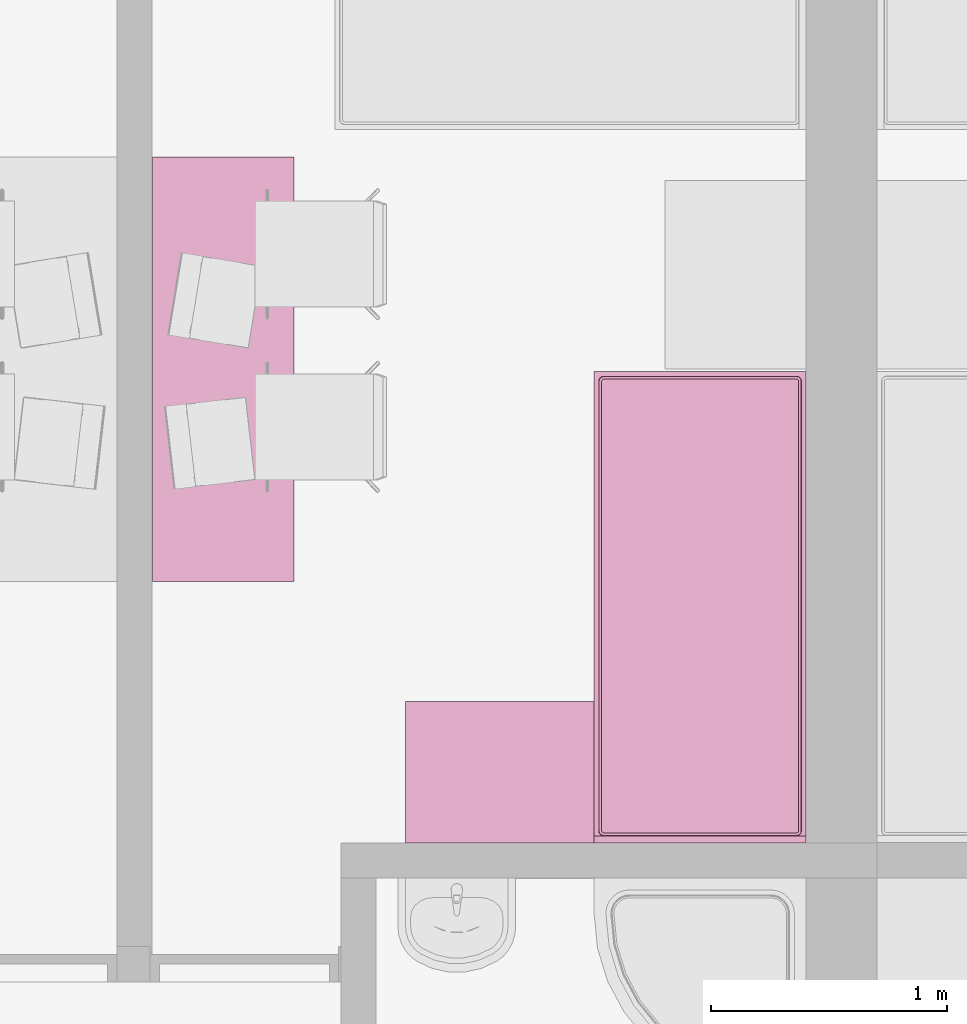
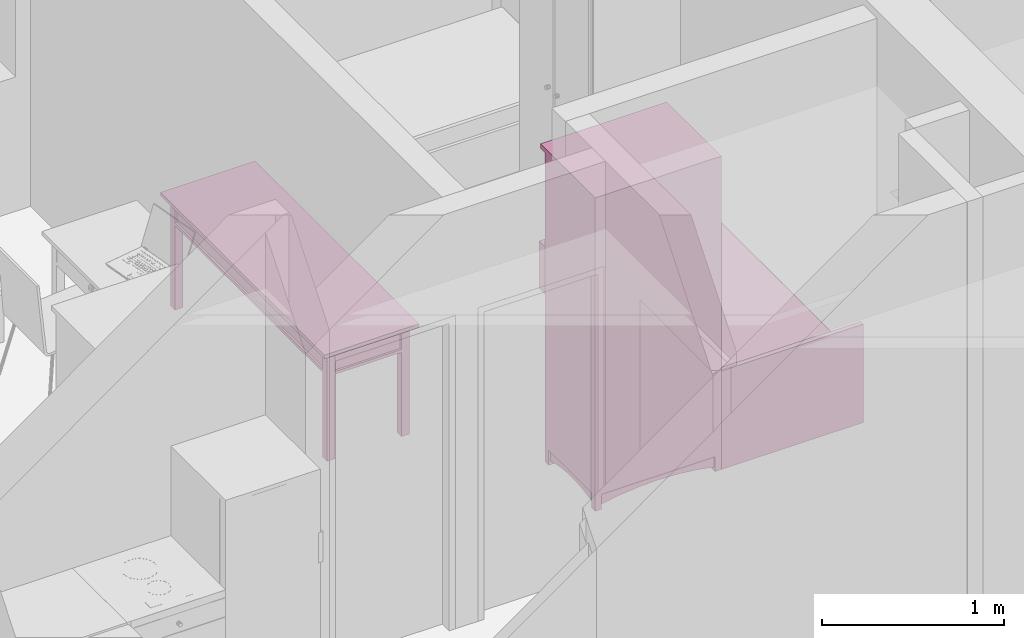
# One storey, part 93 of 165: 3 furnishings.
"""IFC2X3 building model written with IfcOpenShell, lengths in millimetres."""

from ifc_helpers import new_model, entity, si_unit, converted_unit, money_unit, direction, frame, origin_with_axes, place, context, subcontext, project, spatial, faceted_brep, source, transform, mapped, material, material_list, type_object, element, save


model = new_model("IFC2X3")

# Units and contexts
model_context = context("Model", 3, precision=1e-05, world=origin_with_axes(), true_north=direction((0.0, 1.0)))
body_context = subcontext(model_context, "Body", "Model", "MODEL_VIEW")
ifc_project = project(units=[si_unit("LENGTHUNIT", "METRE", prefix="MILLI"), si_unit("AREAUNIT", "SQUARE_METRE"), si_unit("VOLUMEUNIT", "CUBIC_METRE"), converted_unit("PLANEANGLEUNIT", "DEGREE", entity("IfcPlaneAngleMeasure", 0.0174532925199), si_unit("PLANEANGLEUNIT", "RADIAN"), dimensions=[0, 0, 0, 0, 0, 0, 0]), si_unit("SOLIDANGLEUNIT", "STERADIAN"), money_unit("USD"), converted_unit("TIMEUNIT", "Year", entity("IfcTimeMeasure", 31556926.0), si_unit("TIMEUNIT", "SECOND"), dimensions=[0, 0, 0, 0, 0, 0, 0]), si_unit("MASSUNIT", "GRAM"), si_unit("THERMODYNAMICTEMPERATUREUNIT", "DEGREE_CELSIUS"), si_unit("LUMINOUSINTENSITYUNIT", "LUMEN")], contexts=[model_context])

# Site, building, storey
site_placement = place(None, origin_with_axes())
site = spatial("IfcSite", under=ifc_project, at=site_placement, Name="Site", CompositionType="ELEMENT")
building_placement = place(site_placement, origin_with_axes())
building = spatial("IfcBuilding", under=site, at=building_placement, Name="Building", CompositionType="ELEMENT")
storey_placement = place(building_placement, frame((0.0, 0.0, 6300.0), z_axis=(0.0, 0.0, 1.0), x_axis=(1.0, 0.0, 0.0)))
storey = spatial("IfcBuildingStorey", under=building, at=storey_placement, Name="4KORRUS", CompositionType="ELEMENT", Elevation=6300.0)

# Furnishings
ifc_material = material(Name="Background")
ifc_material_list = material_list([ifc_material])
furnishing_element_type_1 = type_object("IfcFurnishingElementType", Name="Cupboard 19")
shared_shape_1 = source(origin_with_axes(), body_context, "Body", "Brep", [
    faceted_brep([(-780.0, 600.0, 120.0), (-780.0, 580.0, 120.0), (-780.0, 580.0, 2050.0), (-780.0, 600.0, 2050.0), (-20.0, 600.0, 120.0), (-20.0, 580.0, 120.0), (-20.0, 580.0, 2050.0), (-20.0, 600.0, 2050.0)], [[[0, 1, 2, 3]], [[0, 4, 5, 1]], [[1, 5, 6, 2]], [[3, 2, 6, 7]], [[4, 0, 3, 7]], [[5, 4, 7, 6]]]),
    faceted_brep([(0.0, 50.0, 100.0), (-20.0, 50.0, 100.0), (-20.0, 600.0, 100.0), (0.0, 600.0, 100.0), (0.0, 50.0, 2070.0), (-20.0, 50.0, 2070.0), (-20.0, 600.0, 2070.0), (0.0, 600.0, 2070.0)], [[[0, 1, 2, 3]], [[1, 0, 4, 5]], [[2, 1, 5, 6]], [[3, 2, 6, 7]], [[0, 3, 7, 4]], [[5, 4, 7, 6]]]),
    faceted_brep([(-780.0, 50.0, 100.0), (-800.0, 50.0, 100.0), (-800.0, 600.0, 100.0), (-780.0, 600.0, 100.0), (-780.0, 50.0, 2070.0), (-800.0, 50.0, 2070.0), (-800.0, 600.0, 2070.0), (-780.0, 600.0, 2070.0)], [[[0, 1, 2, 3]], [[1, 0, 4, 5]], [[2, 1, 5, 6]], [[3, 2, 6, 7]], [[0, 3, 7, 4]], [[5, 4, 7, 6]]]),
    faceted_brep([(-20.0, 50.0, 100.0), (-780.0, 50.0, 100.0), (-780.0, 600.0, 100.0), (-20.0, 600.0, 100.0), (-20.0, 50.0, 120.0), (-780.0, 50.0, 120.0), (-780.0, 600.0, 120.0), (-20.0, 600.0, 120.0)], [[[0, 1, 2, 3]], [[1, 0, 4, 5]], [[2, 1, 5, 6]], [[3, 2, 6, 7]], [[0, 3, 7, 4]], [[5, 4, 7, 6]]]),
    faceted_brep([(-20.0, 50.0, 2050.0), (-780.0, 50.0, 2050.0), (-780.0, 600.0, 2050.0), (-20.0, 600.0, 2050.0), (-20.0, 50.0, 2070.0), (-780.0, 50.0, 2070.0), (-780.0, 600.0, 2070.0), (-20.0, 600.0, 2070.0)], [[[0, 1, 2, 3]], [[1, 0, 4, 5]], [[2, 1, 5, 6]], [[3, 2, 6, 7]], [[0, 3, 7, 4]], [[5, 4, 7, 6]]]),
    faceted_brep([(0.0, 600.0, 2070.0), (0.0, 600.0, 2100.0), (0.0, 0.0, 2100.0), (0.0, 0.0, 2070.0), (-800.0, 600.0, 2070.0), (-800.0, 600.0, 2100.0), (-800.0, 0.0, 2100.0), (-800.0, 0.0, 2070.0)], [[[0, 1, 2, 3]], [[4, 5, 1, 0]], [[1, 5, 6, 2]], [[3, 2, 6, 7]], [[0, 3, 7, 4]], [[7, 6, 5, 4]]]),
    faceted_brep([(-760.0, 590.0, 25.0), (-640.962, 590.0, 45.8), (-640.962, 570.0, 45.8), (-760.0, 570.0, 25.0), (-760.0, 590.0, 100.0), (-40.0, 590.0, 100.0), (-40.0, 590.0, 25.0), (-159.038, 590.0, 45.8), (-279.23, 590.0, 58.32), (-400.0, 590.0, 62.5), (-520.77, 590.0, 58.32), (-520.77, 570.0, 58.32), (-400.0, 570.0, 62.5), (-279.23, 570.0, 58.32), (-159.038, 570.0, 45.8), (-40.0, 570.0, 25.0), (-40.0, 570.0, 100.0), (-760.0, 570.0, 100.0)], [[[0, 1, 2, 3]], [[0, 4, 5, 6, 7, 8, 9, 10, 1]], [[1, 10, 11, 2]], [[3, 2, 11, 12, 13, 14, 15, 16, 17]], [[4, 0, 3, 17]], [[5, 4, 17, 16]], [[6, 5, 16, 15]], [[7, 6, 15, 14]], [[8, 7, 14, 13]], [[9, 8, 13, 12]], [[10, 9, 12, 11]]]),
    faceted_brep([(-760.0, 80.0, 25.0), (-640.962, 80.0, 45.8), (-640.962, 60.0, 45.8), (-760.0, 60.0, 25.0), (-760.0, 80.0, 100.0), (-40.0, 80.0, 100.0), (-40.0, 80.0, 25.0), (-159.038, 80.0, 45.8), (-279.23, 80.0, 58.32), (-400.0, 80.0, 62.5), (-520.77, 80.0, 58.32), (-520.77, 60.0, 58.32), (-400.0, 60.0, 62.5), (-279.23, 60.0, 58.32), (-159.038, 60.0, 45.8), (-40.0, 60.0, 25.0), (-40.0, 60.0, 100.0), (-760.0, 60.0, 100.0)], [[[0, 1, 2, 3]], [[0, 4, 5, 6, 7, 8, 9, 10, 1]], [[1, 10, 11, 2]], [[3, 2, 11, 12, 13, 14, 15, 16, 17]], [[4, 0, 3, 17]], [[5, 4, 17, 16]], [[6, 5, 16, 15]], [[7, 6, 15, 14]], [[8, 7, 14, 13]], [[9, 8, 13, 12]], [[10, 9, 12, 11]]]),
    faceted_brep([(-790.0, 90.0, 25.0), (-790.0, 141.266, 38.072), (-770.0, 141.266, 38.072), (-770.0, 90.0, 25.0), (-790.0, 90.0, 100.0), (-790.0, 560.0, 100.0), (-790.0, 560.0, 25.0), (-790.0, 508.734, 38.072), (-790.0, 456.752, 47.92), (-790.0, 404.257, 54.508), (-790.0, 351.453, 57.808), (-790.0, 298.547, 57.808), (-790.0, 245.743, 54.508), (-790.0, 193.248, 47.92), (-770.0, 193.248, 47.92), (-770.0, 245.743, 54.508), (-770.0, 298.547, 57.808), (-770.0, 351.453, 57.808), (-770.0, 404.257, 54.508), (-770.0, 456.752, 47.92), (-770.0, 508.734, 38.072), (-770.0, 560.0, 25.0), (-770.0, 560.0, 100.0), (-770.0, 90.0, 100.0)], [[[0, 1, 2, 3]], [[0, 4, 5, 6, 7, 8, 9, 10, 11, 12, 13, 1]], [[1, 13, 14, 2]], [[3, 2, 14, 15, 16, 17, 18, 19, 20, 21, 22, 23]], [[4, 0, 3, 23]], [[5, 4, 23, 22]], [[6, 5, 22, 21]], [[7, 6, 21, 20]], [[8, 7, 20, 19]], [[9, 8, 19, 18]], [[10, 9, 18, 17]], [[11, 10, 17, 16]], [[12, 11, 16, 15]], [[13, 12, 15, 14]]]),
    faceted_brep([(-30.0, 90.0, 25.0), (-30.0, 141.266, 38.072), (-10.0, 141.266, 38.072), (-10.0, 90.0, 25.0), (-30.0, 90.0, 100.0), (-30.0, 560.0, 100.0), (-30.0, 560.0, 25.0), (-30.0, 508.734, 38.072), (-30.0, 456.752, 47.92), (-30.0, 404.257, 54.508), (-30.0, 351.453, 57.808), (-30.0, 298.547, 57.808), (-30.0, 245.743, 54.508), (-30.0, 193.248, 47.92), (-10.0, 193.248, 47.92), (-10.0, 245.743, 54.508), (-10.0, 298.547, 57.808), (-10.0, 351.453, 57.808), (-10.0, 404.257, 54.508), (-10.0, 456.752, 47.92), (-10.0, 508.734, 38.072), (-10.0, 560.0, 25.0), (-10.0, 560.0, 100.0), (-10.0, 90.0, 100.0)], [[[0, 1, 2, 3]], [[0, 4, 5, 6, 7, 8, 9, 10, 11, 12, 13, 1]], [[1, 13, 14, 2]], [[3, 2, 14, 15, 16, 17, 18, 19, 20, 21, 22, 23]], [[4, 0, 3, 23]], [[5, 4, 23, 22]], [[6, 5, 22, 21]], [[7, 6, 21, 20]], [[8, 7, 20, 19]], [[9, 8, 19, 18]], [[10, 9, 18, 17]], [[11, 10, 17, 16]], [[12, 11, 16, 15]], [[13, 12, 15, 14]]]),
    faceted_brep([(-760.0, 560.0, 0.0), (-760.0, 600.0, 0.0), (-760.0, 600.0, 100.0), (-760.0, 560.0, 100.0), (-800.0, 560.0, 0.0), (-800.0, 600.0, 0.0), (-800.0, 600.0, 100.0), (-800.0, 560.0, 100.0)], [[[0, 1, 2, 3]], [[0, 4, 5, 1]], [[1, 5, 6, 2]], [[3, 2, 6, 7]], [[4, 0, 3, 7]], [[5, 4, 7, 6]]]),
    faceted_brep([(0.0, 560.0, 0.0), (0.0, 600.0, 0.0), (0.0, 600.0, 100.0), (0.0, 560.0, 100.0), (-40.0, 560.0, 0.0), (-40.0, 600.0, 0.0), (-40.0, 600.0, 100.0), (-40.0, 560.0, 100.0)], [[[0, 1, 2, 3]], [[0, 4, 5, 1]], [[1, 5, 6, 2]], [[3, 2, 6, 7]], [[4, 0, 3, 7]], [[5, 4, 7, 6]]]),
    faceted_brep([(-760.0, 50.0, 0.0), (-760.0, 90.0, 0.0), (-760.0, 90.0, 100.0), (-760.0, 50.0, 100.0), (-800.0, 50.0, 0.0), (-800.0, 90.0, 0.0), (-800.0, 90.0, 100.0), (-800.0, 50.0, 100.0)], [[[0, 1, 2, 3]], [[0, 4, 5, 1]], [[1, 5, 6, 2]], [[3, 2, 6, 7]], [[4, 0, 3, 7]], [[5, 4, 7, 6]]]),
    faceted_brep([(0.0, 50.0, 0.0), (0.0, 90.0, 0.0), (0.0, 90.0, 100.0), (0.0, 50.0, 100.0), (-40.0, 50.0, 0.0), (-40.0, 90.0, 0.0), (-40.0, 90.0, 100.0), (-40.0, 50.0, 100.0)], [[[0, 1, 2, 3]], [[0, 4, 5, 1]], [[1, 5, 6, 2]], [[3, 2, 6, 7]], [[4, 0, 3, 7]], [[5, 4, 7, 6]]]),
    faceted_brep([(-780.0, 580.0, 587.5), (-780.0, 50.0, 587.5), (-780.0, 50.0, 607.5), (-780.0, 580.0, 607.5), (-20.0, 580.0, 587.5), (-20.0, 50.0, 587.5), (-20.0, 50.0, 607.5), (-20.0, 580.0, 607.5)], [[[0, 1, 2, 3]], [[0, 4, 5, 1]], [[1, 5, 6, 2]], [[3, 2, 6, 7]], [[4, 0, 3, 7]], [[5, 4, 7, 6]]]),
    faceted_brep([(-780.0, 580.0, 1075.0), (-780.0, 50.0, 1075.0), (-780.0, 50.0, 1095.0), (-780.0, 580.0, 1095.0), (-20.0, 580.0, 1075.0), (-20.0, 50.0, 1075.0), (-20.0, 50.0, 1095.0), (-20.0, 580.0, 1095.0)], [[[0, 1, 2, 3]], [[0, 4, 5, 1]], [[1, 5, 6, 2]], [[3, 2, 6, 7]], [[4, 0, 3, 7]], [[5, 4, 7, 6]]]),
    faceted_brep([(-780.0, 580.0, 1562.5), (-780.0, 50.0, 1562.5), (-780.0, 50.0, 1582.5), (-780.0, 580.0, 1582.5), (-20.0, 580.0, 1562.5), (-20.0, 50.0, 1562.5), (-20.0, 50.0, 1582.5), (-20.0, 580.0, 1582.5)], [[[0, 1, 2, 3]], [[0, 4, 5, 1]], [[1, 5, 6, 2]], [[3, 2, 6, 7]], [[4, 0, 3, 7]], [[5, 4, 7, 6]]]),
    faceted_brep([(-789.5, 50.0, 110.5), (-789.5, 50.0, 2059.5), (-400.5, 50.0, 2059.5), (-400.5, 50.0, 110.5), (-789.5, 40.0, 110.5), (-789.5, 40.0, 2059.5), (-400.5, 40.0, 2059.5), (-400.5, 40.0, 110.5), (-779.5, 30.0, 120.5), (-779.5, 30.0, 2049.5), (-410.5, 30.0, 2049.5), (-410.5, 30.0, 120.5)], [[[0, 1, 2, 3]], [[1, 0, 4, 5]], [[2, 1, 5, 6]], [[3, 2, 6, 7]], [[0, 3, 7, 4]], [[5, 4, 8, 9]], [[6, 5, 9, 10]], [[7, 6, 10, 11]], [[4, 7, 11, 8]], [[10, 9, 8, 11]]]),
    faceted_brep([(-399.5, 50.0, 110.5), (-399.5, 50.0, 2059.5), (-10.5, 50.0, 2059.5), (-10.5, 50.0, 110.5), (-399.5, 40.0, 110.5), (-399.5, 40.0, 2059.5), (-10.5, 40.0, 2059.5), (-10.5, 40.0, 110.5), (-389.5, 30.0, 120.5), (-389.5, 30.0, 2049.5), (-20.5, 30.0, 2049.5), (-20.5, 30.0, 120.5)], [[[0, 1, 2, 3]], [[1, 0, 4, 5]], [[2, 1, 5, 6]], [[3, 2, 6, 7]], [[0, 3, 7, 4]], [[5, 4, 8, 9]], [[6, 5, 9, 10]], [[7, 6, 10, 11]], [[4, 7, 11, 8]], [[10, 9, 8, 11]]]),
    faceted_brep([(-339.608, 30.0, 954.0), (-344.0, 30.0, 949.608), (-350.0, 30.0, 948.0), (-356.0, 30.0, 949.608), (-360.392, 30.0, 954.0), (-362.0, 30.0, 960.0), (-360.392, 30.0, 966.0), (-356.0, 30.0, 970.392), (-350.0, 30.0, 972.0), (-344.0, 30.0, 970.392), (-339.608, 30.0, 966.0), (-338.0, 30.0, 960.0), (-339.608, 5.0, 954.0), (-344.0, 5.0, 949.608), (-350.0, 5.0, 948.0), (-356.0, 5.0, 949.608), (-360.392, 5.0, 954.0), (-362.0, 5.0, 960.0), (-360.392, 5.0, 966.0), (-356.0, 5.0, 970.392), (-350.0, 5.0, 972.0), (-344.0, 5.0, 970.392), (-339.608, 5.0, 966.0), (-338.0, 5.0, 960.0)], [[[0, 1, 2, 3, 4, 5, 6, 7, 8, 9, 10, 11]], [[1, 0, 12, 13]], [[2, 1, 13, 14]], [[3, 2, 14, 15]], [[4, 3, 15, 16]], [[5, 4, 16, 17]], [[6, 5, 17, 18]], [[7, 6, 18, 19]], [[8, 7, 19, 20]], [[9, 8, 20, 21]], [[10, 9, 21, 22]], [[11, 10, 22, 23]], [[0, 11, 23, 12]], [[12, 23, 22, 21, 20, 19, 18, 17, 16, 15, 14, 13]]]),
    faceted_brep([(-460.392, 30.0, 954.0), (-462.0, 30.0, 960.0), (-460.392, 30.0, 966.0), (-456.0, 30.0, 970.392), (-450.0, 30.0, 972.0), (-444.0, 30.0, 970.392), (-439.608, 30.0, 966.0), (-438.0, 30.0, 960.0), (-439.608, 30.0, 954.0), (-444.0, 30.0, 949.608), (-450.0, 30.0, 948.0), (-456.0, 30.0, 949.608), (-460.392, 5.0, 954.0), (-462.0, 5.0, 960.0), (-460.392, 5.0, 966.0), (-456.0, 5.0, 970.392), (-450.0, 5.0, 972.0), (-444.0, 5.0, 970.392), (-439.608, 5.0, 966.0), (-438.0, 5.0, 960.0), (-439.608, 5.0, 954.0), (-444.0, 5.0, 949.608), (-450.0, 5.0, 948.0), (-456.0, 5.0, 949.608)], [[[0, 1, 2, 3, 4, 5, 6, 7, 8, 9, 10, 11]], [[0, 12, 13, 1]], [[1, 13, 14, 2]], [[2, 14, 15, 3]], [[3, 15, 16, 4]], [[4, 16, 17, 5]], [[5, 17, 18, 6]], [[6, 18, 19, 7]], [[7, 19, 20, 8]], [[8, 20, 21, 9]], [[9, 21, 22, 10]], [[10, 22, 23, 11]], [[11, 23, 12, 0]], [[12, 23, 22, 21, 20, 19, 18, 17, 16, 15, 14, 13]]]),
])
furnishing_1_placement = place(storey_placement, frame((-31990.2967033, -8617.37850445, 0.0), z_axis=(0.0, 0.0, 1.0), x_axis=(-1.0, 0.0, 0.0)))
element("IfcFurnishingElement", 1, at=furnishing_1_placement, inside=storey, type_object=furnishing_element_type_1, material=ifc_material_list, Name="FU - 014", context=body_context, shape_type="MappedRepresentation", body=[
    mapped(shared_shape_1, transform((0.0, 0.0, 0.0))),
])
furnishing_element_type_2 = type_object("IfcFurnishingElementType", Name="Bed 19")
shared_shape_2 = source(origin_with_axes(), body_context, "Body", "Brep", [
    faceted_brep([(-900.0, 1970.0, 0.0), (-900.0, 2000.0, 0.0), (0.0, 2000.0, 0.0), (0.0, 1970.0, 0.0), (-900.0, 1970.0, 660.0), (-900.0, 2000.0, 660.0), (0.0, 2000.0, 660.0), (0.0, 1970.0, 660.0)], [[[0, 1, 2, 3]], [[0, 4, 5, 1]], [[1, 5, 6, 2]], [[2, 6, 7, 3]], [[3, 7, 4, 0]], [[7, 6, 5, 4]]]),
    faceted_brep([(-900.0, 0.0, 0.0), (-900.0, 1970.0, 0.0), (0.0, 1970.0, 0.0), (0.0, 0.0, 0.0), (-900.0, 0.0, 320.0), (-900.0, 1970.0, 320.0), (0.0, 1970.0, 320.0), (0.0, 0.0, 320.0)], [[[0, 1, 2, 3]], [[0, 4, 5, 1]], [[1, 5, 6, 2]], [[2, 6, 7, 3]], [[3, 7, 4, 0]], [[7, 6, 5, 4]]]),
    faceted_brep([(-905.0, 10.0, 30.0), (-905.0, 695.0, 30.0), (-900.0, 695.0, 30.0), (-900.0, 10.0, 30.0), (-905.0, 10.0, 290.0), (-905.0, 695.0, 290.0), (-900.0, 695.0, 290.0), (-900.0, 10.0, 290.0)], [[[0, 1, 2, 3]], [[0, 4, 5, 1]], [[1, 5, 6, 2]], [[2, 6, 7, 3]], [[3, 7, 4, 0]], [[7, 6, 5, 4]]]),
    faceted_brep([(-935.0, 307.5, 150.0), (-935.0, 397.5, 150.0), (-905.0, 397.5, 150.0), (-905.0, 307.5, 150.0), (-935.0, 307.5, 170.0), (-935.0, 397.5, 170.0), (-905.0, 397.5, 170.0), (-905.0, 307.5, 170.0)], [[[0, 1, 2, 3]], [[0, 4, 5, 1]], [[1, 5, 6, 2]], [[2, 6, 7, 3]], [[3, 7, 4, 0]], [[7, 6, 5, 4]]]),
    faceted_brep([(-905.0, 705.0, 30.0), (-905.0, 1390.0, 30.0), (-900.0, 1390.0, 30.0), (-900.0, 705.0, 30.0), (-905.0, 705.0, 290.0), (-905.0, 1390.0, 290.0), (-900.0, 1390.0, 290.0), (-900.0, 705.0, 290.0)], [[[0, 1, 2, 3]], [[0, 4, 5, 1]], [[1, 5, 6, 2]], [[2, 6, 7, 3]], [[3, 7, 4, 0]], [[7, 6, 5, 4]]]),
    faceted_brep([(-935.0, 1002.5, 150.0), (-935.0, 1092.5, 150.0), (-905.0, 1092.5, 150.0), (-905.0, 1002.5, 150.0), (-935.0, 1002.5, 170.0), (-935.0, 1092.5, 170.0), (-905.0, 1092.5, 170.0), (-905.0, 1002.5, 170.0)], [[[0, 1, 2, 3]], [[0, 4, 5, 1]], [[1, 5, 6, 2]], [[2, 6, 7, 3]], [[3, 7, 4, 0]], [[7, 6, 5, 4]]]),
    faceted_brep([(-20.0, 40.0, 350.0), (-21.522, 32.346, 350.0), (-25.858, 25.858, 350.0), (-32.346, 21.522, 350.0), (-40.0, 20.0, 350.0), (-860.0, 20.0, 350.0), (-867.654, 21.522, 350.0), (-874.142, 25.858, 350.0), (-878.478, 32.346, 350.0), (-880.0, 40.0, 350.0), (-880.0, 1950.0, 350.0), (-878.478, 1957.654, 350.0), (-874.142, 1964.142, 350.0), (-867.654, 1968.478, 350.0), (-860.0, 1970.0, 350.0), (-40.0, 1970.0, 350.0), (-32.346, 1968.478, 350.0), (-25.858, 1964.142, 350.0), (-21.522, 1957.654, 350.0), (-20.0, 1950.0, 350.0), (-20.0, 40.0, 420.0), (-21.522, 32.346, 420.0), (-25.858, 25.858, 420.0), (-32.346, 21.522, 420.0), (-40.0, 20.0, 420.0), (-860.0, 20.0, 420.0), (-867.654, 21.522, 420.0), (-874.142, 25.858, 420.0), (-878.478, 32.346, 420.0), (-880.0, 40.0, 420.0), (-880.0, 1950.0, 420.0), (-878.478, 1957.654, 420.0), (-874.142, 1964.142, 420.0), (-867.654, 1968.478, 420.0), (-860.0, 1970.0, 420.0), (-40.0, 1970.0, 420.0), (-32.346, 1968.478, 420.0), (-25.858, 1964.142, 420.0), (-21.522, 1957.654, 420.0), (-20.0, 1950.0, 420.0), (-21.522, 40.15, 427.654), (-22.956, 32.94, 427.654), (-26.955, 26.955, 427.654), (-32.94, 22.956, 427.654), (-40.15, 21.522, 427.654), (-859.85, 21.522, 427.654), (-867.06, 22.956, 427.654), (-873.045, 26.955, 427.654), (-877.044, 32.94, 427.654), (-878.478, 40.15, 427.654), (-878.478, 1949.85, 427.654), (-877.044, 1957.06, 427.654), (-873.045, 1963.045, 427.654), (-867.06, 1967.044, 427.654), (-859.85, 1968.478, 427.654), (-40.15, 1968.478, 427.654), (-32.94, 1967.044, 427.654), (-26.955, 1963.045, 427.654), (-22.956, 1957.06, 427.654), (-21.522, 1949.85, 427.654), (-32.346, 41.216, 438.478), (-33.152, 37.164, 438.478), (-34.759, 34.759, 438.478), (-37.164, 33.152, 438.478), (-41.216, 32.346, 438.478), (-858.784, 32.346, 438.478), (-862.836, 33.152, 438.478), (-865.241, 34.759, 438.478), (-866.848, 37.164, 438.478), (-867.654, 41.216, 438.478), (-867.654, 1948.784, 438.478), (-866.848, 1952.836, 438.478), (-865.241, 1955.241, 438.478), (-862.836, 1956.848, 438.478), (-858.784, 1957.654, 438.478), (-41.216, 1957.654, 438.478), (-37.164, 1956.848, 438.478), (-34.759, 1955.241, 438.478), (-33.152, 1952.836, 438.478), (-32.346, 1948.784, 438.478), (-40.0, 41.97, 440.0), (-40.327, 40.327, 440.0), (-40.0, 40.0, 439.924), (-41.97, 40.0, 440.0), (-858.03, 40.0, 440.0), (-859.673, 40.327, 440.0), (-860.0, 40.0, 439.924), (-860.0, 41.97, 440.0), (-860.0, 1948.03, 440.0), (-859.673, 1949.673, 440.0), (-860.0, 1950.0, 439.924), (-858.03, 1950.0, 440.0), (-41.97, 1950.0, 440.0), (-40.327, 1949.673, 440.0), (-40.0, 1950.0, 439.924), (-40.0, 1948.03, 440.0)], [[[0, 1, 2, 3, 4, 5, 6, 7, 8, 9, 10, 11, 12, 13, 14, 15, 16, 17, 18, 19]], [[0, 20, 21, 1]], [[1, 21, 22, 2]], [[2, 22, 23, 3]], [[3, 23, 24, 4]], [[4, 24, 25, 5]], [[5, 25, 26, 6]], [[6, 26, 27, 7]], [[7, 27, 28, 8]], [[8, 28, 29, 9]], [[9, 29, 30, 10]], [[10, 30, 31, 11]], [[11, 31, 32, 12]], [[12, 32, 33, 13]], [[13, 33, 34, 14]], [[14, 34, 35, 15]], [[15, 35, 36, 16]], [[16, 36, 37, 17]], [[17, 37, 38, 18]], [[18, 38, 39, 19]], [[19, 39, 20, 0]], [[20, 40, 41, 21]], [[21, 41, 42, 22]], [[22, 42, 43, 23]], [[23, 43, 44, 24]], [[24, 44, 45, 25]], [[25, 45, 46, 26]], [[26, 46, 47, 27]], [[27, 47, 48, 28]], [[28, 48, 49, 29]], [[29, 49, 50, 30]], [[30, 50, 51, 31]], [[31, 51, 52, 32]], [[32, 52, 53, 33]], [[33, 53, 54, 34]], [[34, 54, 55, 35]], [[35, 55, 56, 36]], [[36, 56, 57, 37]], [[37, 57, 58, 38]], [[38, 58, 59, 39]], [[39, 59, 40, 20]], [[40, 60, 61, 41]], [[41, 61, 62, 42]], [[42, 62, 63, 43]], [[43, 63, 64, 44]], [[44, 64, 65, 45]], [[45, 65, 66, 46]], [[46, 66, 67, 47]], [[47, 67, 68, 48]], [[48, 68, 69, 49]], [[49, 69, 70, 50]], [[50, 70, 71, 51]], [[51, 71, 72, 52]], [[52, 72, 73, 53]], [[53, 73, 74, 54]], [[54, 74, 75, 55]], [[55, 75, 76, 56]], [[56, 76, 77, 57]], [[57, 77, 78, 58]], [[58, 78, 79, 59]], [[59, 79, 60, 40]], [[60, 80, 81, 82, 61]], [[61, 82, 62]], [[62, 82, 63]], [[63, 82, 81, 83, 64]], [[64, 83, 84, 65]], [[65, 84, 85, 86, 66]], [[66, 86, 67]], [[67, 86, 68]], [[68, 86, 85, 87, 69]], [[69, 87, 88, 70]], [[70, 88, 89, 90, 71]], [[71, 90, 72]], [[72, 90, 73]], [[73, 90, 89, 91, 74]], [[74, 91, 92, 75]], [[75, 92, 93, 94, 76]], [[76, 94, 77]], [[77, 94, 78]], [[78, 94, 93, 95, 79]], [[79, 95, 80, 60]], [[95, 93, 92, 91, 89, 88, 87, 85, 84, 83, 81, 80]]]),
    faceted_brep([(-20.0, 40.0, 350.0), (-20.0, 1950.0, 350.0), (-21.522, 1957.654, 350.0), (-25.858, 1964.142, 350.0), (-32.346, 1968.478, 350.0), (-40.0, 1970.0, 350.0), (-860.0, 1970.0, 350.0), (-867.654, 1968.478, 350.0), (-874.142, 1964.142, 350.0), (-878.478, 1957.654, 350.0), (-880.0, 1950.0, 350.0), (-880.0, 40.0, 350.0), (-878.478, 32.346, 350.0), (-874.142, 25.858, 350.0), (-867.654, 21.522, 350.0), (-860.0, 20.0, 350.0), (-40.0, 20.0, 350.0), (-32.346, 21.522, 350.0), (-25.858, 25.858, 350.0), (-21.522, 32.346, 350.0), (-20.0, 40.0, 320.0), (-20.0, 1950.0, 320.0), (-21.522, 1957.654, 320.0), (-25.858, 1964.142, 320.0), (-32.346, 1968.478, 320.0), (-40.0, 1970.0, 320.0), (-860.0, 1970.0, 320.0), (-867.654, 1968.478, 320.0), (-874.142, 1964.142, 320.0), (-878.478, 1957.654, 320.0), (-880.0, 1950.0, 320.0), (-880.0, 40.0, 320.0), (-878.478, 32.346, 320.0), (-874.142, 25.858, 320.0), (-867.654, 21.522, 320.0), (-860.0, 20.0, 320.0), (-40.0, 20.0, 320.0), (-32.346, 21.522, 320.0), (-25.858, 25.858, 320.0), (-21.522, 32.346, 320.0)], [[[0, 1, 2, 3, 4, 5, 6, 7, 8, 9, 10, 11, 12, 13, 14, 15, 16, 17, 18, 19]], [[1, 0, 20, 21]], [[2, 1, 21, 22]], [[3, 2, 22, 23]], [[4, 3, 23, 24]], [[5, 4, 24, 25]], [[6, 5, 25, 26]], [[7, 6, 26, 27]], [[8, 7, 27, 28]], [[9, 8, 28, 29]], [[10, 9, 29, 30]], [[11, 10, 30, 31]], [[12, 11, 31, 32]], [[13, 12, 32, 33]], [[14, 13, 33, 34]], [[15, 14, 34, 35]], [[16, 15, 35, 36]], [[17, 16, 36, 37]], [[18, 17, 37, 38]], [[19, 18, 38, 39]], [[0, 19, 39, 20]], [[20, 39, 38, 37, 36, 35, 34, 33, 32, 31, 30, 29, 28, 27, 26, 25, 24, 23, 22, 21]]]),
])
furnishing_2_placement = place(storey_placement, frame((-31190.2967033, -7217.37850445, 0.0), z_axis=(0.0, 0.0, 1.0), x_axis=(-1.0, 0.0, 0.0)))
element("IfcFurnishingElement", 2, at=furnishing_2_placement, inside=storey, type_object=furnishing_element_type_2, material=ifc_material_list, Name="FU - 013", context=body_context, shape_type="MappedRepresentation", body=[
    mapped(shared_shape_2, transform((0.0, 0.0, 0.0))),
])
furnishing_element_type_3 = type_object("IfcFurnishingElementType", Name="Rectangular Table 01 19")
shared_shape_3 = source(origin_with_axes(), body_context, "Body", "Brep", [
    faceted_brep([(-90.0, 40.0, 0.0), (-90.0, 90.0, 0.0), (-40.0, 90.0, 0.0), (-40.0, 40.0, 0.0), (-90.0, 40.0, 725.0), (-90.0, 90.0, 725.0), (-40.0, 90.0, 725.0), (-40.0, 40.0, 725.0)], [[[0, 1, 2, 3]], [[0, 4, 5, 1]], [[1, 5, 6, 2]], [[2, 6, 7, 3]], [[3, 7, 4, 0]], [[7, 6, 5, 4]]]),
    faceted_brep([(-1760.0, 40.0, 0.0), (-1760.0, 90.0, 0.0), (-1710.0, 90.0, 0.0), (-1710.0, 40.0, 0.0), (-1760.0, 40.0, 725.0), (-1760.0, 90.0, 725.0), (-1710.0, 90.0, 725.0), (-1710.0, 40.0, 725.0)], [[[0, 1, 2, 3]], [[0, 4, 5, 1]], [[1, 5, 6, 2]], [[2, 6, 7, 3]], [[3, 7, 4, 0]], [[7, 6, 5, 4]]]),
    faceted_brep([(-90.0, 510.0, 0.0), (-90.0, 560.0, 0.0), (-40.0, 560.0, 0.0), (-40.0, 510.0, 0.0), (-90.0, 510.0, 725.0), (-90.0, 560.0, 725.0), (-40.0, 560.0, 725.0), (-40.0, 510.0, 725.0)], [[[0, 1, 2, 3]], [[0, 4, 5, 1]], [[1, 5, 6, 2]], [[2, 6, 7, 3]], [[3, 7, 4, 0]], [[7, 6, 5, 4]]]),
    faceted_brep([(-1760.0, 510.0, 0.0), (-1760.0, 560.0, 0.0), (-1710.0, 560.0, 0.0), (-1710.0, 510.0, 0.0), (-1760.0, 510.0, 725.0), (-1760.0, 560.0, 725.0), (-1710.0, 560.0, 725.0), (-1710.0, 510.0, 725.0)], [[[0, 1, 2, 3]], [[0, 4, 5, 1]], [[1, 5, 6, 2]], [[2, 6, 7, 3]], [[3, 7, 4, 0]], [[7, 6, 5, 4]]]),
    faceted_brep([(-1760.0, 40.0, 565.0), (-1760.0, 560.0, 565.0), (-40.0, 560.0, 565.0), (-40.0, 40.0, 565.0), (-1760.0, 40.0, 585.0), (-1760.0, 560.0, 585.0), (-40.0, 560.0, 585.0), (-40.0, 40.0, 585.0)], [[[0, 1, 2, 3]], [[0, 4, 5, 1]], [[1, 5, 6, 2]], [[2, 6, 7, 3]], [[3, 7, 4, 0]], [[7, 6, 5, 4]]]),
    faceted_brep([(-1710.0, 52.5, 585.0), (-1710.0, 77.5, 585.0), (-90.0, 77.5, 585.0), (-90.0, 52.5, 585.0), (-1710.0, 52.5, 745.0), (-1710.0, 77.5, 745.0), (-90.0, 77.5, 745.0), (-90.0, 52.5, 745.0)], [[[0, 1, 2, 3]], [[0, 4, 5, 1]], [[1, 5, 6, 2]], [[2, 6, 7, 3]], [[3, 7, 4, 0]], [[7, 6, 5, 4]]]),
    faceted_brep([(-77.5, 90.0, 585.0), (-77.5, 510.0, 585.0), (-52.5, 510.0, 585.0), (-52.5, 90.0, 585.0), (-77.5, 90.0, 745.0), (-77.5, 510.0, 745.0), (-52.5, 510.0, 745.0), (-52.5, 90.0, 745.0)], [[[0, 1, 2, 3]], [[0, 4, 5, 1]], [[1, 5, 6, 2]], [[2, 6, 7, 3]], [[3, 7, 4, 0]], [[7, 6, 5, 4]]]),
    faceted_brep([(-90.0, 547.5, 585.0), (-90.0, 522.5, 585.0), (-1710.0, 522.5, 585.0), (-1710.0, 547.5, 585.0), (-90.0, 547.5, 745.0), (-90.0, 522.5, 745.0), (-1710.0, 522.5, 745.0), (-1710.0, 547.5, 745.0)], [[[0, 1, 2, 3]], [[0, 4, 5, 1]], [[1, 5, 6, 2]], [[2, 6, 7, 3]], [[3, 7, 4, 0]], [[7, 6, 5, 4]]]),
    faceted_brep([(-1722.5, 510.0, 585.0), (-1722.5, 90.0, 585.0), (-1747.5, 90.0, 585.0), (-1747.5, 510.0, 585.0), (-1722.5, 510.0, 745.0), (-1722.5, 90.0, 745.0), (-1747.5, 90.0, 745.0), (-1747.5, 510.0, 745.0)], [[[0, 1, 2, 3]], [[0, 4, 5, 1]], [[1, 5, 6, 2]], [[2, 6, 7, 3]], [[3, 7, 4, 0]], [[7, 6, 5, 4]]]),
    faceted_brep([(-897.5, 40.0, 585.0), (-897.5, 60.0, 585.0), (-95.0, 60.0, 585.0), (-95.0, 40.0, 585.0), (-897.5, 40.0, 745.0), (-897.5, 60.0, 745.0), (-95.0, 60.0, 745.0), (-95.0, 40.0, 745.0)], [[[0, 1, 2, 3]], [[0, 4, 5, 1]], [[1, 5, 6, 2]], [[2, 6, 7, 3]], [[3, 7, 4, 0]], [[7, 6, 5, 4]]]),
    faceted_brep([(-1705.0, 40.0, 585.0), (-1705.0, 60.0, 585.0), (-902.5, 60.0, 585.0), (-902.5, 40.0, 585.0), (-1705.0, 40.0, 745.0), (-1705.0, 60.0, 745.0), (-902.5, 60.0, 745.0), (-902.5, 40.0, 745.0)], [[[0, 1, 2, 3]], [[0, 4, 5, 1]], [[1, 5, 6, 2]], [[2, 6, 7, 3]], [[3, 7, 4, 0]], [[7, 6, 5, 4]]]),
    faceted_brep([(-504.91, 40.0, 660.0), (-506.25, 40.0, 665.0), (-504.91, 40.0, 670.0), (-501.25, 40.0, 673.66), (-496.25, 40.0, 675.0), (-491.25, 40.0, 673.66), (-487.59, 40.0, 670.0), (-486.25, 40.0, 665.0), (-487.59, 40.0, 660.0), (-491.25, 40.0, 656.34), (-496.25, 40.0, 655.0), (-501.25, 40.0, 656.34), (-504.91, 25.0, 660.0), (-506.25, 25.0, 665.0), (-504.91, 25.0, 670.0), (-501.25, 25.0, 673.66), (-496.25, 25.0, 675.0), (-491.25, 25.0, 673.66), (-487.59, 25.0, 670.0), (-486.25, 25.0, 665.0), (-487.59, 25.0, 660.0), (-491.25, 25.0, 656.34), (-496.25, 25.0, 655.0), (-501.25, 25.0, 656.34)], [[[0, 1, 2, 3, 4, 5, 6, 7, 8, 9, 10, 11]], [[0, 12, 13, 1]], [[1, 13, 14, 2]], [[2, 14, 15, 3]], [[3, 15, 16, 4]], [[4, 16, 17, 5]], [[5, 17, 18, 6]], [[6, 18, 19, 7]], [[7, 19, 20, 8]], [[8, 20, 21, 9]], [[9, 21, 22, 10]], [[10, 22, 23, 11]], [[11, 23, 12, 0]], [[12, 23, 22, 21, 20, 19, 18, 17, 16, 15, 14, 13]]]),
    faceted_brep([(-506.25, 12.01, 665.0), (-504.91, 12.01, 660.0), (-496.25, 10.0, 665.0), (-513.571, 17.5, 665.0), (-511.25, 17.5, 656.34), (-501.25, 12.01, 656.34), (-504.91, 12.01, 670.0), (-516.25, 25.0, 665.0), (-513.571, 25.0, 655.0), (-504.91, 17.5, 650.0), (-511.25, 17.5, 673.66), (-496.25, 12.01, 655.0), (-501.25, 12.01, 673.66), (-513.571, 25.0, 675.0), (-506.25, 25.0, 682.321), (-496.25, 25.0, 685.0), (-486.25, 25.0, 682.321), (-478.929, 25.0, 675.0), (-476.25, 25.0, 665.0), (-478.929, 25.0, 655.0), (-486.25, 25.0, 647.679), (-496.25, 25.0, 645.0), (-506.25, 25.0, 647.679), (-496.25, 17.5, 647.679), (-504.91, 17.5, 680.0), (-491.25, 12.01, 656.34), (-496.25, 12.01, 675.0), (-496.25, 17.5, 682.321), (-487.59, 17.5, 680.0), (-481.25, 17.5, 673.66), (-478.929, 17.5, 665.0), (-481.25, 17.5, 656.34), (-487.59, 17.5, 650.0), (-487.59, 12.01, 660.0), (-491.25, 12.01, 673.66), (-487.59, 12.01, 670.0), (-486.25, 12.01, 665.0)], [[[0, 1, 2]], [[3, 4, 1, 0]], [[1, 5, 2]], [[6, 0, 2]], [[7, 8, 4, 3]], [[4, 9, 5, 1]], [[10, 3, 0, 6]], [[5, 11, 2]], [[12, 6, 2]], [[8, 7, 13, 14, 15, 16, 17, 18, 19, 20, 21, 22]], [[8, 22, 9, 4]], [[13, 7, 3, 10]], [[9, 23, 11, 5]], [[24, 10, 6, 12]], [[11, 25, 2]], [[26, 12, 2]], [[14, 13, 10, 24]], [[15, 14, 24, 27]], [[16, 15, 27, 28]], [[17, 16, 28, 29]], [[18, 17, 29, 30]], [[19, 18, 30, 31]], [[20, 19, 31, 32]], [[21, 20, 32, 23]], [[22, 21, 23, 9]], [[23, 32, 25, 11]], [[27, 24, 12, 26]], [[25, 33, 2]], [[34, 26, 2]], [[28, 27, 26, 34]], [[29, 28, 34, 35]], [[30, 29, 35, 36]], [[31, 30, 36, 33]], [[32, 31, 33, 25]], [[33, 36, 2]], [[35, 34, 2]], [[36, 35, 2]]]),
    faceted_brep([(-1312.41, 40.0, 660.0), (-1313.75, 40.0, 665.0), (-1312.41, 40.0, 670.0), (-1308.75, 40.0, 673.66), (-1303.75, 40.0, 675.0), (-1298.75, 40.0, 673.66), (-1295.09, 40.0, 670.0), (-1293.75, 40.0, 665.0), (-1295.09, 40.0, 660.0), (-1298.75, 40.0, 656.34), (-1303.75, 40.0, 655.0), (-1308.75, 40.0, 656.34), (-1312.41, 25.0, 660.0), (-1313.75, 25.0, 665.0), (-1312.41, 25.0, 670.0), (-1308.75, 25.0, 673.66), (-1303.75, 25.0, 675.0), (-1298.75, 25.0, 673.66), (-1295.09, 25.0, 670.0), (-1293.75, 25.0, 665.0), (-1295.09, 25.0, 660.0), (-1298.75, 25.0, 656.34), (-1303.75, 25.0, 655.0), (-1308.75, 25.0, 656.34)], [[[0, 1, 2, 3, 4, 5, 6, 7, 8, 9, 10, 11]], [[0, 12, 13, 1]], [[1, 13, 14, 2]], [[2, 14, 15, 3]], [[3, 15, 16, 4]], [[4, 16, 17, 5]], [[5, 17, 18, 6]], [[6, 18, 19, 7]], [[7, 19, 20, 8]], [[8, 20, 21, 9]], [[9, 21, 22, 10]], [[10, 22, 23, 11]], [[11, 23, 12, 0]], [[12, 23, 22, 21, 20, 19, 18, 17, 16, 15, 14, 13]]]),
    faceted_brep([(-1313.75, 12.01, 665.0), (-1312.41, 12.01, 660.0), (-1303.75, 10.0, 665.0), (-1321.071, 17.5, 665.0), (-1318.75, 17.5, 656.34), (-1308.75, 12.01, 656.34), (-1312.41, 12.01, 670.0), (-1323.75, 25.0, 665.0), (-1321.071, 25.0, 655.0), (-1312.41, 17.5, 650.0), (-1318.75, 17.5, 673.66), (-1303.75, 12.01, 655.0), (-1308.75, 12.01, 673.66), (-1321.071, 25.0, 675.0), (-1313.75, 25.0, 682.321), (-1303.75, 25.0, 685.0), (-1293.75, 25.0, 682.321), (-1286.429, 25.0, 675.0), (-1283.75, 25.0, 665.0), (-1286.429, 25.0, 655.0), (-1293.75, 25.0, 647.679), (-1303.75, 25.0, 645.0), (-1313.75, 25.0, 647.679), (-1303.75, 17.5, 647.679), (-1312.41, 17.5, 680.0), (-1298.75, 12.01, 656.34), (-1303.75, 12.01, 675.0), (-1303.75, 17.5, 682.321), (-1295.09, 17.5, 680.0), (-1288.75, 17.5, 673.66), (-1286.429, 17.5, 665.0), (-1288.75, 17.5, 656.34), (-1295.09, 17.5, 650.0), (-1295.09, 12.01, 660.0), (-1298.75, 12.01, 673.66), (-1295.09, 12.01, 670.0), (-1293.75, 12.01, 665.0)], [[[0, 1, 2]], [[3, 4, 1, 0]], [[1, 5, 2]], [[6, 0, 2]], [[7, 8, 4, 3]], [[4, 9, 5, 1]], [[10, 3, 0, 6]], [[5, 11, 2]], [[12, 6, 2]], [[8, 7, 13, 14, 15, 16, 17, 18, 19, 20, 21, 22]], [[8, 22, 9, 4]], [[13, 7, 3, 10]], [[9, 23, 11, 5]], [[24, 10, 6, 12]], [[11, 25, 2]], [[26, 12, 2]], [[14, 13, 10, 24]], [[15, 14, 24, 27]], [[16, 15, 27, 28]], [[17, 16, 28, 29]], [[18, 17, 29, 30]], [[19, 18, 30, 31]], [[20, 19, 31, 32]], [[21, 20, 32, 23]], [[22, 21, 23, 9]], [[23, 32, 25, 11]], [[27, 24, 12, 26]], [[25, 33, 2]], [[34, 26, 2]], [[28, 27, 26, 34]], [[29, 28, 34, 35]], [[30, 29, 35, 36]], [[31, 30, 36, 33]], [[32, 31, 33, 25]], [[33, 36, 2]], [[35, 34, 2]], [[36, 35, 2]]]),
    faceted_brep([(-1800.0, 0.0, 725.0), (-1800.0, 600.0, 725.0), (0.0, 600.0, 725.0), (0.0, 0.0, 725.0), (-1800.0, 0.0, 750.0), (-1800.0, 600.0, 750.0), (0.0, 600.0, 750.0), (0.0, 0.0, 750.0)], [[[0, 1, 2, 3]], [[0, 4, 5, 1]], [[1, 5, 6, 2]], [[2, 6, 7, 3]], [[3, 7, 4, 0]], [[7, 6, 5, 4]]]),
])
furnishing_3_placement = place(storey_placement, frame((-32464.8498837, -6307.26955348, 0.0), z_axis=(0.0, 0.0, 1.0), x_axis=(0.0, 1.0, 0.0)))
element("IfcFurnishingElement", 3, at=furnishing_3_placement, inside=storey, type_object=furnishing_element_type_3, material=ifc_material_list, Name="FU - 011", context=body_context, shape_type="MappedRepresentation", body=[
    mapped(shared_shape_3, transform((0.0, 0.0, 0.0))),
])

save(model, "model.ifc")
